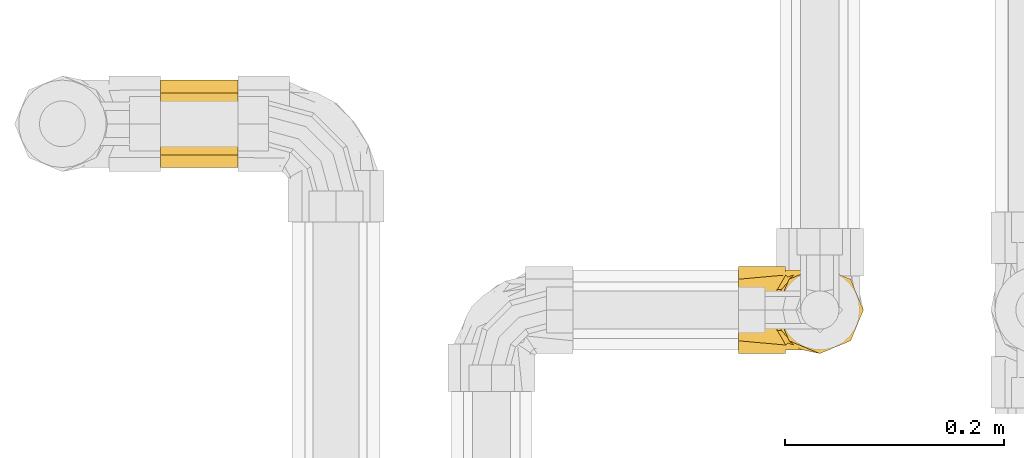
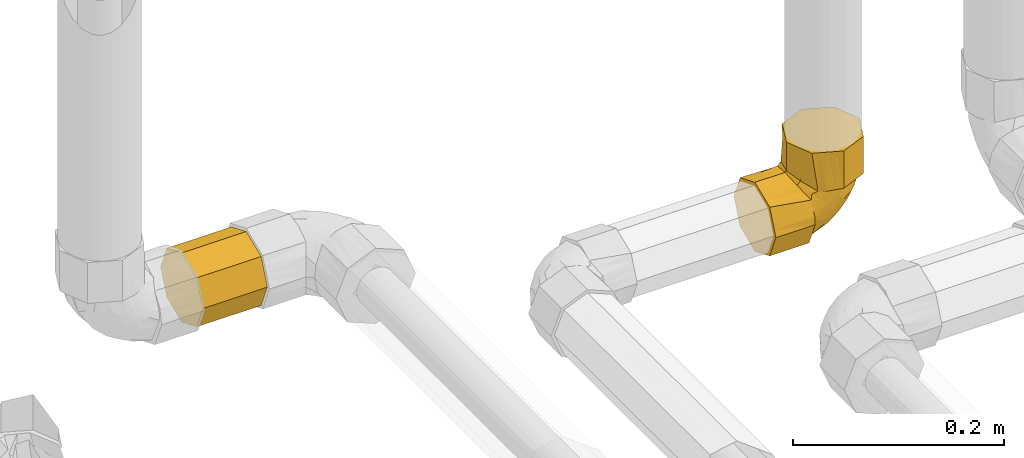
# One storey, part 277 of 652: 2 coverings.
"""IFC2X3 building model written with IfcOpenShell, lengths in millimetres."""

from ifc_helpers import new_model, entity, si_unit, converted_unit, direction, frame, origin, place, context, subcontext, project, spatial, faceted_brep, material, type_object, element, save


model = new_model("IFC2X3")

# Units and contexts
model_context = context("Model", 3, precision=0.01, world=frame((0.0, 0.0, 308426.39999999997)), true_north=direction((6.123233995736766e-17, 1.0)))
plan_context = context("Plan", 3, precision=0.01, world=frame((0.0, 0.0, 308426.39999999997)), true_north=direction((6.123233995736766e-17, 1.0)))
body_context = subcontext(model_context, "Body", "Model", "MODEL_VIEW")
ifc_project = project(units=[si_unit("LENGTHUNIT", "METRE", prefix="MILLI"), si_unit("AREAUNIT", "SQUARE_METRE"), si_unit("VOLUMEUNIT", "CUBIC_METRE"), converted_unit("PLANEANGLEUNIT", "DEGREE", entity("IfcPlaneAngleMeasure", 0.017453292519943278), si_unit("PLANEANGLEUNIT", "RADIAN"), dimensions=[0, 0, 0, 0, 0, 0, 0])], contexts=[model_context, plan_context])

# Site, building, storey
site_placement = place(None, origin())
site = spatial("IfcSite", under=ifc_project, at=site_placement, Name="Default", CompositionType="ELEMENT")
building_placement = place(site_placement, origin())
building = spatial("IfcBuilding", under=site, at=building_placement, CompositionType="ELEMENT")
storey_placement = place(building_placement, frame((0.0, 0.0, 1730.6999999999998)))
storey = spatial("IfcBuildingStorey", under=building, at=storey_placement, Name="EG_Produktion_FFB", CompositionType="ELEMENT", Elevation=1730.6999999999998)

# Coverings
ifc_material = material(Name="Dämmung - Armaflex-Schlauch")
covering_type = type_object("IfcCoveringType", Name="Rohrdämmung außen:Armaflex-Schlauch", PredefinedType="INSULATION")
covering_1_placement = place(storey_placement, frame((79347.84274770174, 78737.33483172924, 3558.60472776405)))
element("IfcCovering", 1, at=covering_1_placement, inside=storey, type_object=covering_type, material=ifc_material, Name="Rohrdämmung außen:Armaflex-Schlauch", ObjectType="Rohrdämmung außen:Armaflex-Schlauch", PredefinedType="INSULATION", context=body_context, shape_type="Brep", body=[
    faceted_brep([(60.274884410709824, 6.09855493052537, 72.5952722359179), (64.29230202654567, 5.6265029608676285, 72.59527223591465), (70.51547105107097, 4.895272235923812, 72.5952722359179), (78.15107734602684, 8.337309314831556, 72.59527223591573), (85.78668364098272, 11.779346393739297, 72.59527223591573), (92.96045967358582, 15.013196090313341, 72.59527223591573), (100.13423570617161, 18.247045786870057, 72.5952722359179), (104.38836473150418, 29.821159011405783, 72.59527223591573), (108.64249375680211, 41.395272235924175, 72.5952722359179), (104.99034516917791, 48.61586780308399, 72.59527223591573), (101.33819658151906, 55.83646337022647, 72.59527223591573), (97.68604799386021, 63.05705893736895, 72.59527223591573), (94.03389940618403, 70.27765450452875, 72.5952722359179), (86.6719403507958, 72.66219266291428, 72.59527223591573), (78.59370570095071, 75.27873244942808, 72.59527223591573), (70.51547105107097, 77.89527223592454, 72.5952722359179), (64.29230202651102, 77.16404151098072, 72.59527223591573), (60.274884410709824, 76.69198954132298, 72.5952722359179), (55.42320232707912, 75.03870510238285, 72.59527223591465), (50.57152024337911, 73.38542066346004, 72.5952722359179), (58.21189368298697, 76.8423263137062, 72.5952722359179), (65.8522671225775, 80.29923196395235, 72.5952722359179), (74.24999999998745, 81.19527223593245, 72.5952722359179), (82.25021212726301, 77.88147587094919, 72.5952722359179), (88.32142494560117, 75.36669718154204, 72.5952722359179), (95.35713741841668, 72.45240965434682, 72.5952722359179), (102.39284989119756, 69.53812212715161, 72.5952722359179), (105.3071374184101, 62.50240965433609, 72.5952722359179), (108.2214249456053, 55.466697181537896, 72.5952722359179), (111.13571247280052, 48.4309847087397, 72.5952722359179), (114.0499999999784, 41.395272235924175, 72.5952722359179), (110.73620360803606, 33.39506004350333, 72.5952722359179), (108.2214249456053, 27.32384729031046, 72.5952722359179), (105.3071374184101, 20.28813481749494, 72.5952722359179), (102.39284989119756, 13.252422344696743, 72.5952722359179), (95.35713741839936, 10.338134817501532, 72.5952722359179), (88.32142494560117, 7.423847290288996, 72.5952722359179), (82.25021085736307, 4.909068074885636, 72.5952722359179), (74.24999999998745, 1.5952722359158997, 72.5952722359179), (66.046592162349, 3.3647978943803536, 72.5952722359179), (57.843184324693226, 5.1343235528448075, 72.5952722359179), (50.57152024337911, 9.405123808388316, 72.5952722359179), (55.42320232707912, 7.751839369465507, 72.59527223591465), (67.21428752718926, 78.28098470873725, 115.64527223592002), (60.17857505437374, 75.36669718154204, 115.64527223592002), (53.14286258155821, 72.4524096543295, 115.64527223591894), (46.10715010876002, 69.53812212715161, 115.64527223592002), (43.1928625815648, 62.50240965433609, 115.64527223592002), (40.2785750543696, 55.466697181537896, 115.64527223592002), (37.763796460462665, 49.39548459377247, 115.6452722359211), (34.44999999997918, 41.395272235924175, 115.64527223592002), (37.76379578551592, 33.39506150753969, 115.64527223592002), (40.2785750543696, 27.32384729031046, 115.64527223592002), (43.1928625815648, 20.28813481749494, 115.64527223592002), (46.10715010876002, 13.252422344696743, 115.64527223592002), (53.14286258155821, 10.338134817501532, 115.64527223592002), (60.17857505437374, 7.4238472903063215, 115.64527223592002), (67.21428752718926, 4.509559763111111, 115.64527223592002), (74.24999999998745, 1.5952722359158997, 115.64527223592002), (81.28571247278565, 4.509559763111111, 115.64527223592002), (88.32142494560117, 7.423847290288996, 115.64527223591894), (95.35713741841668, 10.338134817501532, 115.64527223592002), (102.39284989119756, 13.252422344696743, 115.64527223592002), (105.3071374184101, 20.288134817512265, 115.64527223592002), (108.22142494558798, 27.32384729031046, 115.64527223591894), (111.13571247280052, 34.359559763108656, 115.64527223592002), (114.0499999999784, 41.395272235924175, 115.64527223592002), (111.13571247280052, 48.43098470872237, 115.64527223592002), (108.2214249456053, 55.466697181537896, 115.64527223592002), (105.3071374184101, 62.502409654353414, 115.64527223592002), (102.39284989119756, 69.53812212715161, 115.64527223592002), (90.250425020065, 74.5676791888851, 115.64527223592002), (82.25021251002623, 77.8814757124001, 115.64527223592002), (74.24999999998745, 81.19527223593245, 115.64527223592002), (44.81389553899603, 66.68337377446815, 76.44407623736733), (34.44999999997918, 41.395272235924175, 82.67731282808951), (36.753135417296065, 50.688299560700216, 81.48509653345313), (39.056270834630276, 59.98132688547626, 80.29288023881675), (37.9047031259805, 55.33481322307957, 80.88898838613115), (44.81389553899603, 16.10717069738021, 76.44407623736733), (36.753135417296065, 32.10224491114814, 81.48509653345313), (39.056270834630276, 22.809217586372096, 80.29288023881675), (35.51913456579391, 37.08137186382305, 82.12387613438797), (43.04999999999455, 1.5952722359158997, 41.39527223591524), (43.04999999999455, 4.9090685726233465, 33.39506017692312), (43.04999999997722, 7.423847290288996, 27.32384729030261), (43.04999999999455, 10.338134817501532, 20.288134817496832), (43.04999999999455, 13.252422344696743, 13.252422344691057), (43.04999999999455, 20.28813481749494, 10.338134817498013), (43.04999999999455, 27.32384729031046, 7.4238472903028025), (43.04999999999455, 33.39506143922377, 4.909068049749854), (43.04999999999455, 41.395272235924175, 1.595272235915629), (43.04999999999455, 49.39548405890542, 4.9090684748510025), (43.04999999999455, 55.466697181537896, 7.4238472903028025), (43.05000000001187, 62.502409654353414, 10.338134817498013), (43.04999999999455, 69.53812212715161, 13.252422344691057), (43.04999999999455, 72.45240965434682, 20.288134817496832), (43.04999999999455, 75.36669718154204, 27.32384729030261), (43.05000000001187, 78.28098470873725, 34.359559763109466), (43.04999999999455, 81.19527223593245, 41.39527223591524), (43.04999999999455, 79.425746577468, 49.59868007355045), (43.04999999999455, 77.65622091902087, 57.80208791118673), (43.04999999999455, 73.38542066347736, 65.07375199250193), (43.05000000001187, 75.03870510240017, 60.22206990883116), (43.04999999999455, 76.69198954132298, 55.370387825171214), (43.05000000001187, 77.1640414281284, 51.35297091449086), (43.05000000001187, 77.52965683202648, 48.241386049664), (43.04999999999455, 77.89527223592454, 45.12980118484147), (43.05000000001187, 74.55732884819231, 37.72511002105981), (43.05000000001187, 71.21938546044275, 30.320418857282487), (43.05000000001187, 67.88144207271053, 22.91572769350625), (43.04999999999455, 64.5434986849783, 15.51103652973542), (43.05000000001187, 58.756442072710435, 13.383972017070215), (43.05000000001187, 52.969385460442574, 11.256907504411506), (43.04999999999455, 41.395272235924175, 7.002778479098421), (43.05000000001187, 34.17467666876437, 10.654927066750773), (43.05000000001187, 26.954081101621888, 14.30707565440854), (43.05000000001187, 19.73348553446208, 17.959224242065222), (43.04999999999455, 12.512889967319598, 21.611372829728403), (43.05000000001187, 10.60848553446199, 27.490979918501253), (43.05000000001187, 8.704081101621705, 33.37058700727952), (43.04999999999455, 4.895272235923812, 45.12980118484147), (43.05000000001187, 5.26088763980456, 48.24138604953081), (43.05000000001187, 5.6265030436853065, 51.35297091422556), (43.04999999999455, 6.09855493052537, 55.370387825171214), (43.05000000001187, 7.751839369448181, 60.22206990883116), (43.04999999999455, 9.405123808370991, 65.07375199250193), (43.04999999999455, 5.9482181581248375, 57.433378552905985), (43.04999999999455, 2.4913125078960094, 49.793005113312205), (0.0, 69.53812212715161, 13.252422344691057), (0.0, 57.39569695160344, 8.222865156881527), (0.0, 49.39548459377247, 4.90906869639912), (0.0, 41.395272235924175, 1.595272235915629), (0.0, 34.35955976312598, 4.509559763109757), (0.0, 27.32384729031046, 7.4238472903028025), (0.0, 20.28813481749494, 10.33813481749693), (0.0, 13.252422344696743, 13.252422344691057), (0.0, 10.338134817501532, 20.288134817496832), (0.0, 7.4238472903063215, 27.32384729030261), (0.0, 4.509559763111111, 34.359559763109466), (0.0, 1.5952722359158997, 41.39527223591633), (0.0, 4.509559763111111, 48.43098470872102), (0.0, 7.423847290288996, 55.46669718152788), (0.0, 10.338134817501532, 62.502409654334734), (0.0, 13.252422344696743, 69.53812212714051), (0.0, 20.28813481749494, 72.45240965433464), (0.0, 27.32384729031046, 75.36669718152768), (0.0, 33.395059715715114, 77.8814757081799), (0.0, 41.395272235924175, 81.19527223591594), (0.0, 49.395482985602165, 77.88147644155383), (0.0, 55.466697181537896, 75.3666971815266), (0.0, 62.502409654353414, 72.45240965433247), (0.0, 69.53812212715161, 69.53812212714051), (0.0, 72.45240965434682, 62.502409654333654), (0.0, 75.36669718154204, 55.46669718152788), (0.0, 77.8814757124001, 49.3954847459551), (0.0, 81.19527223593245, 41.39527223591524), (0.0, 78.28098470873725, 34.359559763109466), (0.0, 75.36669718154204, 27.32384729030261), (0.0, 72.45240965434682, 20.288134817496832), (32.96795940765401, 41.395272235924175, 81.19527223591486), (34.16017570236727, 50.688299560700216, 78.89213681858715), (35.35239199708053, 59.98132688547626, 76.58900140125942), (34.07483277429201, 50.023072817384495, 79.05700314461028), (39.201195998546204, 66.68337377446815, 70.83137669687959), (39.201195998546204, 16.10717069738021, 70.83137669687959), (34.16017570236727, 32.10224491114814, 78.89213681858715), (35.35239199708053, 22.809217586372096, 76.58900140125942), (34.07483277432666, 32.76747165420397, 79.0570031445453), (33.52139609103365, 37.08137194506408, 80.12613769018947), (58.23247908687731, 70.65637227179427, 28.206053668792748), (86.42116019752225, 70.91823941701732, 56.305462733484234), (75.59755590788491, 74.40859480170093, 50.75028825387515), (63.92252865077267, 77.89527223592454, 61.09574012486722), (71.17681219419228, 77.07749174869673, 57.98707832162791), (60.44014498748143, 76.96796310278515, 45.95077994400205), (74.83060129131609, 68.4993551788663, 36.88337413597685), (90.7509220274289, 65.4945965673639, 51.91196638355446), (78.05964753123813, 41.395272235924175, 23.773093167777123), (68.73831739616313, 49.467746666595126, 18.35640370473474), (88.06243078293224, 49.828469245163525, 34.59504635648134), (100.99678220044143, 41.395272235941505, 60.38972746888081), (100.72281157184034, 50.83191319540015, 53.852362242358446), (79.36057207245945, 62.24753235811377, 33.57875936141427), (45.44339488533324, 77.89527223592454, 46.960571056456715), (47.836789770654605, 77.89527223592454, 48.791340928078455), (52.623579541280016, 77.89527223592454, 52.452880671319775), (53.48626432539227, 77.89527223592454, 53.11277065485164), (58.273054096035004, 77.89527223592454, 56.77431039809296), (60.59226921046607, 65.5862555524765, 23.214744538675), (91.05533751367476, 59.267453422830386, 44.283571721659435), (98.29864441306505, 60.284144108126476, 58.15325374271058), (69.72062004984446, 58.247695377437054, 22.797790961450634), (81.64353760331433, 55.90886773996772, 30.874072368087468), (60.554823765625, 41.395272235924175, 15.387935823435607), (59.36959978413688, 41.395272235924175, 14.82019005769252), (93.35107064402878, 41.395272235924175, 48.184182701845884), (89.63440863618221, 41.395272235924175, 42.25093709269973), (85.70535908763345, 41.395272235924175, 35.97863793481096), (57.76510271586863, 55.807401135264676, 14.948660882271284), (62.477618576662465, 73.86526147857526, 36.867223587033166), (99.13845119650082, 41.395272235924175, 57.42310466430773), (67.49149366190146, 77.89527223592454, 67.32079492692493), (59.666271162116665, 77.2391786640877, 66.95210059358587), (54.38051617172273, 76.0110802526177, 67.6808485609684), (33.737362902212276, 41.395272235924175, 81.9079093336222), (51.58600444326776, 76.11562270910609, 64.05926727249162), (44.9882204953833, 71.5340814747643, 70.65705203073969), (47.964422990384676, 76.01108003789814, 61.26475634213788), (48.600669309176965, 77.22455062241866, 56.00707165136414), (59.66627116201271, 5.551365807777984, 66.9521005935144), (67.49149366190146, 4.895272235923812, 67.32079492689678), (44.988220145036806, 11.256463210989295, 70.65705212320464), (51.58600369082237, 6.6749221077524, 64.05926802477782), (58.27305409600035, 4.895272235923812, 56.77431039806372), (54.3805161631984, 6.779464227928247, 67.68084859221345), (47.96442295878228, 6.779464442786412, 61.264756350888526), (48.600669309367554, 5.565993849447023, 56.007071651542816), (47.83678977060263, 4.895272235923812, 48.791340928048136), (45.44339488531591, 4.895272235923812, 46.96057105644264), (52.62357954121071, 4.895272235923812, 52.452880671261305), (53.48626432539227, 4.895272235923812, 53.11277065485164), (63.92252865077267, 4.895272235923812, 61.09574012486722), (78.04877773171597, 7.9048254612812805, 55.93070336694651), (85.86627113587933, 11.153131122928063, 57.41477332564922), (57.28853793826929, 6.9092149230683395, 39.07241371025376), (85.39518385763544, 31.851584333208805, 32.13864951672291), (77.13544844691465, 16.779704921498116, 35.61207145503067), (68.41457314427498, 9.122171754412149, 41.05493786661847), (64.68516499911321, 14.6078368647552, 28.565877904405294), (64.86670611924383, 5.8966784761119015, 49.42123922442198), (73.19566844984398, 5.88827797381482, 59.57612792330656), (85.81857944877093, 15.351617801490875, 47.70689865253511), (75.96028629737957, 22.54033754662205, 28.826720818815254), (65.77892171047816, 31.634152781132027, 17.118194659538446), (60.53986394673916, 22.719372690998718, 18.653154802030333), (57.39776429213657, 9.627121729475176, 32.13514386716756), (95.84113677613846, 24.594765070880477, 50.73714499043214), (86.4944008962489, 21.09165217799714, 40.74201153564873), (94.20624665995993, 16.75038261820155, 59.56172140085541), (97.22085117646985, 33.11251139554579, 46.88832387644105)], [[[0, 1, 2, 3, 4, 5, 6, 7, 8, 9, 10, 11, 12, 13, 14, 15, 16, 17, 18, 19, 20, 21, 22, 23, 24, 25, 26, 27, 28, 29, 30, 31, 32, 33, 34, 35, 36, 37, 38, 39, 40, 41, 42]], [[43, 44, 45, 46, 47, 48, 49, 50, 51, 52, 53, 54, 55, 56, 57, 58, 59, 60, 61, 62, 63, 64, 65, 66, 67, 68, 69, 70, 71, 72, 73]], [[47, 46, 74]], [[75, 50, 49]], [[76, 75, 49]], [[48, 77, 78, 76]], [[47, 74, 77]], [[44, 20, 45]], [[43, 21, 44]], [[46, 19, 74]], [[77, 48, 47]], [[44, 21, 20]], [[43, 22, 21]], [[48, 76, 49]], [[43, 73, 22]], [[45, 20, 19]], [[19, 46, 45]], [[23, 22, 73, 72, 71, 70, 26, 25, 24]], [[26, 70, 69, 68, 67, 66, 30, 29, 28, 27]], [[38, 37, 36, 35, 34, 62, 61, 60, 59, 58]], [[30, 66, 65, 64, 63, 62, 34, 33, 32, 31]], [[56, 40, 39]], [[53, 79, 54]], [[39, 57, 56]], [[41, 55, 54]], [[40, 55, 41]], [[80, 52, 51]], [[52, 80, 81]], [[58, 57, 38]], [[51, 75, 82, 80]], [[38, 57, 39]], [[79, 53, 81]], [[55, 40, 56]], [[51, 50, 75]], [[53, 52, 81]], [[79, 41, 54]], [[83, 84, 85, 86, 87, 88, 89, 90, 91, 92, 93, 94, 95, 96, 97, 98, 99, 100, 101, 102, 103, 104, 105, 106, 107, 108, 109, 110, 111, 112, 113, 114, 115, 116, 117, 118, 119, 120, 121, 122, 123, 124, 125, 126, 127, 128]], [[129, 130, 131, 132, 133, 134, 135, 136, 137, 138, 139, 140, 141, 142, 143, 144, 145, 146, 147, 148, 149, 150, 151, 152, 153, 154, 155, 156, 157, 158, 159]], [[132, 131, 130, 129, 95, 94, 93, 92, 91]], [[95, 129, 159, 158, 157, 156, 99, 98, 97, 96]], [[156, 155, 154, 100]], [[101, 153, 102]], [[99, 156, 100]], [[101, 100, 154]], [[149, 148, 160]], [[102, 153, 152]], [[150, 161, 162]], [[161, 150, 149]], [[149, 160, 163, 161]], [[151, 164, 152]], [[164, 151, 162]], [[153, 101, 154]], [[151, 150, 162]], [[164, 102, 152]], [[145, 144, 165]], [[146, 166, 147]], [[166, 146, 167]], [[160, 148, 147]], [[145, 165, 167]], [[142, 127, 143]], [[141, 128, 142]], [[144, 126, 165]], [[167, 146, 145]], [[142, 128, 127]], [[141, 83, 128]], [[147, 166, 168, 169, 160]], [[141, 140, 83]], [[143, 127, 126]], [[126, 144, 143]], [[91, 90, 89, 88, 87, 136, 135, 134, 133, 132]], [[138, 137, 136, 87, 86, 85, 84, 83, 140, 139]], [[109, 170, 110]], [[13, 171, 172]], [[14, 13, 172]], [[173, 174, 175]], [[176, 171, 177]], [[15, 14, 174]], [[178, 179, 180]], [[9, 181, 182]], [[172, 175, 174]], [[13, 12, 171]], [[12, 11, 177]], [[176, 177, 183]], [[175, 107, 184, 185, 186, 187, 188, 173]], [[189, 170, 176]], [[176, 172, 171]], [[190, 191, 182]], [[11, 10, 191]], [[177, 11, 191]], [[170, 189, 110]], [[192, 183, 193]], [[179, 178, 194, 195]], [[182, 191, 10]], [[190, 182, 180]], [[177, 191, 190]], [[182, 10, 9]], [[182, 196, 180]], [[177, 190, 183]], [[177, 171, 12]], [[180, 196, 197, 198, 178]], [[113, 179, 195]], [[112, 111, 199, 113]], [[199, 111, 189]], [[195, 114, 113]], [[179, 192, 193]], [[200, 175, 172]], [[200, 108, 175]], [[172, 176, 200]], [[189, 111, 110]], [[200, 170, 109]], [[183, 189, 176]], [[108, 200, 109]], [[189, 192, 199]], [[108, 107, 175]], [[176, 170, 200]], [[193, 190, 180]], [[189, 183, 192]], [[190, 193, 183]], [[179, 193, 180]], [[181, 9, 8]], [[182, 181, 201, 196]], [[192, 179, 199]], [[179, 113, 199]], [[174, 173, 202, 15]], [[172, 174, 14]], [[173, 203, 202]], [[188, 204, 203]], [[17, 203, 18]], [[202, 17, 16, 15]], [[205, 76, 163]], [[74, 164, 162, 77]], [[163, 76, 78, 77, 162, 161]], [[206, 102, 207]], [[207, 164, 74]], [[106, 105, 104, 185, 184, 107]], [[206, 208, 102]], [[186, 185, 209, 188, 187]], [[205, 75, 76]], [[163, 160, 205]], [[206, 207, 19]], [[164, 207, 102]], [[19, 18, 204]], [[19, 207, 74]], [[202, 203, 17]], [[204, 206, 19]], [[203, 173, 188]], [[18, 203, 204]], [[102, 208, 103]], [[103, 209, 104]], [[208, 206, 188]], [[209, 103, 208]], [[209, 185, 104]], [[188, 209, 208]], [[204, 188, 206]], [[205, 160, 169]], [[210, 211, 0]], [[169, 168, 166, 167, 81, 80, 82]], [[41, 212, 213]], [[1, 0, 211, 2]], [[213, 214, 215]], [[205, 169, 82]], [[79, 165, 212]], [[126, 125, 216]], [[213, 212, 126]], [[205, 82, 75]], [[167, 165, 79, 81]], [[217, 124, 218]], [[210, 215, 214]], [[122, 121, 219, 218, 124, 123]], [[41, 79, 212]], [[212, 165, 126]], [[215, 41, 213]], [[125, 124, 217]], [[126, 216, 213]], [[125, 217, 216]], [[217, 218, 220, 221, 214]], [[215, 42, 41]], [[0, 42, 210]], [[211, 210, 222]], [[214, 213, 216]], [[210, 42, 215]], [[216, 217, 214]], [[210, 214, 222]], [[4, 223, 224]], [[121, 120, 225]], [[226, 178, 198, 197]], [[227, 228, 229]], [[230, 228, 223]], [[231, 222, 230]], [[224, 228, 232]], [[233, 234, 226]], [[3, 231, 223]], [[235, 234, 233]], [[236, 225, 120]], [[231, 2, 211, 222]], [[226, 237, 238]], [[4, 3, 223]], [[225, 221, 220, 218, 219, 121]], [[239, 224, 232]], [[6, 237, 7]], [[237, 6, 239]], [[240, 201, 7]], [[230, 225, 228]], [[226, 240, 237]], [[236, 228, 225]], [[229, 117, 235]], [[194, 234, 115]], [[226, 234, 178]], [[115, 114, 195, 194]], [[237, 239, 238]], [[240, 226, 197]], [[228, 224, 223]], [[224, 239, 5]], [[5, 239, 6]], [[5, 4, 224]], [[239, 232, 238]], [[7, 201, 181, 8]], [[7, 237, 240]], [[240, 197, 196, 201]], [[229, 118, 117]], [[194, 178, 234]], [[233, 238, 227]], [[235, 117, 116]], [[234, 235, 116]], [[229, 235, 233]], [[231, 3, 2]], [[230, 223, 231]], [[230, 222, 214, 221]], [[225, 230, 221]], [[119, 118, 236, 120]], [[236, 118, 229]], [[229, 228, 236]], [[234, 116, 115]], [[227, 238, 232]], [[226, 238, 233]], [[228, 227, 232]], [[233, 227, 229]]]),
])
covering_2_placement = place(storey_placement, frame((78819.72000000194, 78907.26538874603, 3558.4047277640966)))
element("IfcCovering", 2, at=covering_2_placement, inside=storey, type_object=covering_type, material=ifc_material, Name="Rohrdämmung außen:Armaflex-Schlauch", ObjectType="Rohrdämmung außen:Armaflex-Schlauch", PredefinedType="INSULATION", context=body_context, shape_type="Brep", body=[
    faceted_brep([(0.0, 69.87954348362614, 69.87954348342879), (0.0, 72.80847567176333, 62.808475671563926), (0.0, 75.73740785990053, 55.73740785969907), (0.0, 78.66634004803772, 48.666340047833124), (0.0, 81.59527223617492, 41.59527223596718), (0.0, 77.5211340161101, 31.759432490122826), (0.0, 73.44699579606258, 21.923592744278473), (0.0, 69.87954348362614, 13.311000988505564), (0.0, 62.80847567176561, 10.382068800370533), (0.0, 55.73740785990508, 7.453136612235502), (0.0, 48.66634004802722, 4.524204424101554), (0.0, 41.59527223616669, 1.5952722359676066), (0.0, 31.759433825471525, 5.669409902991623), (0.0, 27.453136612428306, 7.453136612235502), (0.0, 20.382068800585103, 10.382068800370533), (0.0, 13.311000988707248, 13.311000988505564), (0.0, 10.382068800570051, 20.382068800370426), (0.0, 7.453136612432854, 27.453136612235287), (0.0, 4.524204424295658, 34.52420442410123), (0.0, 1.595272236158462, 41.59527223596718), (0.0, 5.669409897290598, 51.431110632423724), (0.0, 7.453136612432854, 55.73740785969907), (0.0, 10.382068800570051, 62.808475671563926), (0.0, 13.311000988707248, 69.87954348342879), (0.0, 20.382068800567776, 72.80847567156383), (0.0, 27.453136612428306, 75.73740785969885), (0.0, 34.52420442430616, 78.6663400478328), (0.0, 41.59527223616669, 81.59527223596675), (0.0, 51.43111063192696, 77.52113457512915), (0.0, 55.73740785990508, 75.73740785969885), (0.0, 62.80847567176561, 72.80847567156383), (70.56000000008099, 13.311000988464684, 69.8795434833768), (70.56000000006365, 10.382068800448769, 62.80847567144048), (70.56000000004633, 7.453136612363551, 55.73740785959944), (70.56000000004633, 4.524204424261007, 48.66634004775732), (70.560000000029, 1.5952722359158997, 41.595272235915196), (70.56000000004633, 5.669409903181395, 31.759433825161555), (70.560000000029, 9.743547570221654, 21.92359541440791), (70.56000000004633, 13.311000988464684, 13.311000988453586), (70.56000000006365, 20.38206880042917, 10.382068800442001), (70.56000000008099, 27.453136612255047, 7.453136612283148), (70.56000000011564, 34.52420442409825, 4.52420442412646), (70.56000000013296, 41.595272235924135, 1.595272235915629), (70.56000000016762, 51.43111076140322, 5.6694099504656), (70.56000000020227, 61.26694928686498, 9.743547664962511), (70.56000000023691, 69.87954348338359, 13.311000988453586), (70.56000000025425, 72.80847567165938, 20.382068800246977), (70.56000000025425, 75.73740785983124, 27.453136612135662), (70.5600000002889, 78.66634004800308, 34.524204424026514), (70.5600000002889, 81.59527223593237, 41.595272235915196), (70.5600000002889, 77.52113457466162, 51.431110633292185), (70.56000000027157, 73.44699691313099, 61.266949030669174), (70.56000000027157, 69.87954348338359, 69.8795434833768), (70.56000000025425, 62.80847567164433, 72.80847567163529), (70.56000000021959, 55.737407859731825, 75.7374078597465), (70.56000000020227, 48.66634004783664, 78.66634004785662), (70.56000000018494, 41.595272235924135, 81.59527223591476), (70.56000000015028, 31.759433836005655, 77.5211345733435), (70.56000000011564, 21.923595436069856, 73.44699691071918)], [[[0, 1, 2, 3, 4, 5, 6, 7, 8, 9, 10, 11, 12, 13, 14, 15, 16, 17, 18, 19, 20, 21, 22, 23, 24, 25, 26, 27, 28, 29, 30]], [[31, 32, 33, 34, 35, 36, 37, 38, 39, 40, 41, 42, 43, 44, 45, 46, 47, 48, 49, 50, 51, 52, 53, 54, 55, 56, 57, 58]], [[7, 6, 5, 4, 49, 48, 47, 46, 45]], [[10, 9, 8, 7, 45, 44, 43, 42, 11]], [[17, 16, 15, 38, 37, 36, 35, 19, 18]], [[14, 13, 12, 11, 42, 41, 40, 39, 38, 15]], [[25, 24, 23, 31, 58, 57, 56, 27, 26]], [[22, 21, 20, 19, 35, 34, 33, 32, 31, 23]], [[2, 1, 0, 52, 51, 50, 49, 4, 3]], [[30, 29, 28, 27, 56, 55, 54, 53, 52, 0]]]),
])

save(model, "model.ifc")
